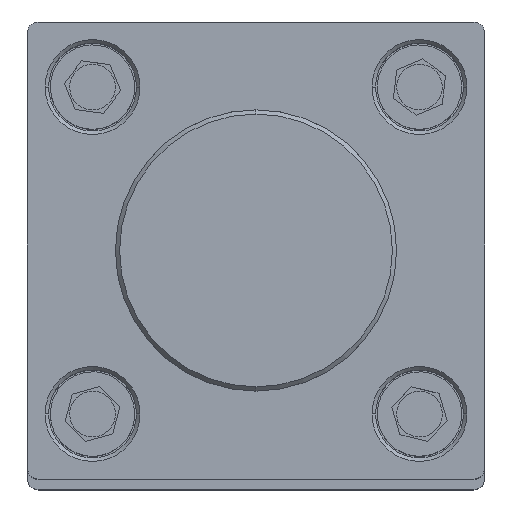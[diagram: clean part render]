
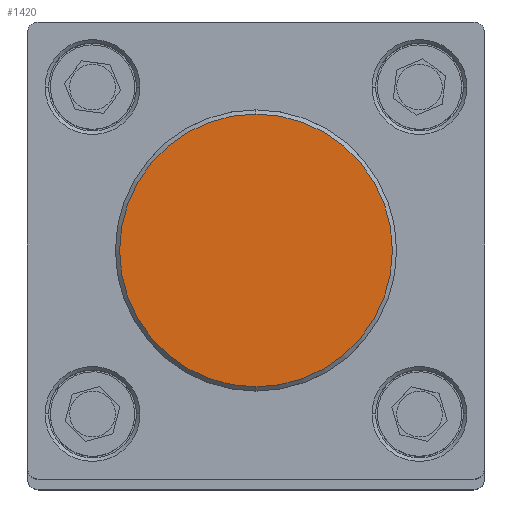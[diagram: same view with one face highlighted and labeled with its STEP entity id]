
A CAD part, top view. The second image highlights one B-rep face of the part: STEP entity #1420.
In plain terms, the highlighted planar face has unit normal (0, 0, 1).
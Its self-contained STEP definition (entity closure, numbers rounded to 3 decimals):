
#921 = CARTESIAN_POINT ( 'NONE',  ( 0., -19.4, 35.7 ) ) ;
#1363 = CARTESIAN_POINT ( 'NONE',  ( 0., 0., 35.7 ) ) ;
#1420 = ADVANCED_FACE ( 'NONE', ( #1560 ), #5890, .T. ) ;
#1447 = CIRCLE ( 'NONE', #5097, 19.4 ) ;
#1560 = FACE_OUTER_BOUND ( 'NONE', #4117, .T. ) ;
#1996 = DIRECTION ( 'NONE',  ( 0., 1., 0. ) ) ;
#2120 = DIRECTION ( 'NONE',  ( 0., 0., 1. ) ) ;
#2249 = CARTESIAN_POINT ( 'NONE',  ( 0., 19.4, 35.7 ) ) ;
#2468 = AXIS2_PLACEMENT_3D ( 'NONE', #6518, #2120, #6546 ) ;
#2518 = VERTEX_POINT ( 'NONE', #2249 ) ;
#2786 = CARTESIAN_POINT ( 'NONE',  ( 0., 0., 35.7 ) ) ;
#3409 = DIRECTION ( 'NONE',  ( 0., 1., 0. ) ) ;
#3843 = VERTEX_POINT ( 'NONE', #921 ) ;
#4117 = EDGE_LOOP ( 'NONE', ( #7161, #5666 ) ) ;
#4170 = EDGE_CURVE ( 'NONE', #2518, #3843, #1447, .T. ) ;
#4294 = CIRCLE ( 'NONE', #6666, 19.4 ) ;
#4489 = EDGE_CURVE ( 'NONE', #3843, #2518, #4294, .T. ) ;
#5097 = AXIS2_PLACEMENT_3D ( 'NONE', #1363, #5759, #1996 ) ;
#5666 = ORIENTED_EDGE ( 'NONE', *, *, #4489, .F. ) ;
#5759 = DIRECTION ( 'NONE',  ( 0., 0., -1. ) ) ;
#5890 = PLANE ( 'NONE',  #2468 ) ;
#6518 = CARTESIAN_POINT ( 'NONE',  ( 0., 19.4, 35.7 ) ) ;
#6546 = DIRECTION ( 'NONE',  ( 0., -1., 0. ) ) ;
#6666 = AXIS2_PLACEMENT_3D ( 'NONE', #2786, #7204, #3409 ) ;
#7161 = ORIENTED_EDGE ( 'NONE', *, *, #4170, .F. ) ;
#7204 = DIRECTION ( 'NONE',  ( 0., 0., -1. ) ) ;
